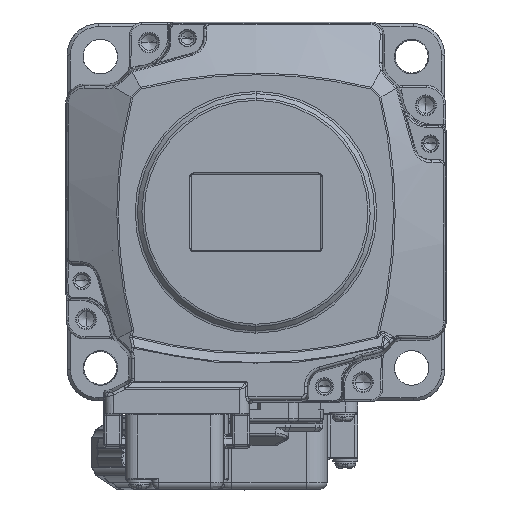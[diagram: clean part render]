
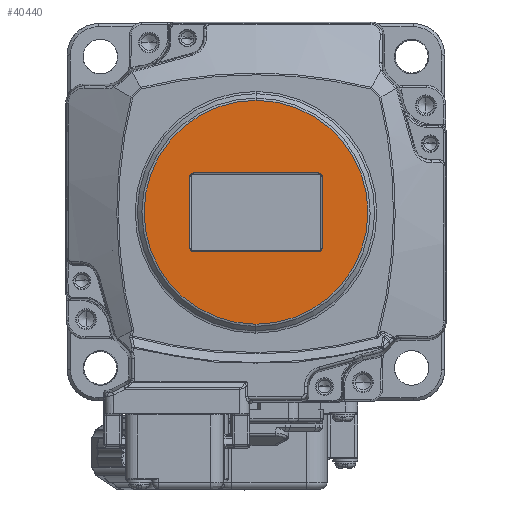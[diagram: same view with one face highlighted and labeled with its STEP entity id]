
A CAD part, front view. The second image highlights one B-rep face of the part: STEP entity #40440.
In plain terms, the highlighted planar face has unit normal (0, -1, 0).
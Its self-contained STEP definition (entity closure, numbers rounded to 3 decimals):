
#9062=CARTESIAN_POINT('',(0.,-119.35,0.));
#9063=DIRECTION('',(0.,1.,0.));
#9064=DIRECTION('',(0.,0.,-1.));
#9065=AXIS2_PLACEMENT_3D('',#9062,#9063,#9064);
#9067=CARTESIAN_POINT('',(0.,-119.35,0.));
#9068=DIRECTION('',(0.,1.,0.));
#9069=DIRECTION('',(-0.015,0.,-1.));
#9070=AXIS2_PLACEMENT_3D('',#9067,#9068,#9069);
#9072=CARTESIAN_POINT('',(0.,-119.35,0.));
#9073=DIRECTION('',(0.,1.,0.));
#9074=DIRECTION('',(0.,0.,1.));
#9075=AXIS2_PLACEMENT_3D('',#9072,#9073,#9074);
#9077=CARTESIAN_POINT('',(0.,-119.35,0.));
#9078=DIRECTION('',(0.,1.,0.));
#9079=DIRECTION('',(0.015,0.,1.));
#9080=AXIS2_PLACEMENT_3D('',#9077,#9078,#9079);
#9082=CARTESIAN_POINT('',(10.,-119.35,-5.75));
#9083=DIRECTION('',(0.,-1.,0.));
#9084=DIRECTION('',(0.,0.,-1.));
#9085=AXIS2_PLACEMENT_3D('',#9082,#9083,#9084);
#9087=CARTESIAN_POINT('',(10.,-119.35,5.75));
#9088=DIRECTION('',(0.,-1.,0.));
#9089=DIRECTION('',(1.,0.,0.));
#9090=AXIS2_PLACEMENT_3D('',#9087,#9088,#9089);
#9092=CARTESIAN_POINT('',(-10.,-119.35,5.75));
#9093=DIRECTION('',(0.,-1.,0.));
#9094=DIRECTION('',(0.,0.,1.));
#9095=AXIS2_PLACEMENT_3D('',#9092,#9093,#9094);
#9097=CARTESIAN_POINT('',(-10.,-119.35,-5.75));
#9098=DIRECTION('',(0.,-1.,0.));
#9099=DIRECTION('',(-1.,0.,0.));
#9100=AXIS2_PLACEMENT_3D('',#9097,#9098,#9099);
#9135=DIRECTION('',(-1.,0.,0.));
#9136=VECTOR('',#9135,20.);
#9137=CARTESIAN_POINT('',(10.,-119.35,-6.25));
#9138=LINE('',#9137,#9136);
#9173=DIRECTION('',(0.,0.,1.));
#9174=VECTOR('',#9173,11.5);
#9175=CARTESIAN_POINT('',(-10.5,-119.35,-5.75));
#9176=LINE('',#9175,#9174);
#9191=DIRECTION('',(1.,0.,0.));
#9192=VECTOR('',#9191,20.);
#9193=CARTESIAN_POINT('',(-10.,-119.35,6.25));
#9194=LINE('',#9193,#9192);
#9209=DIRECTION('',(0.,0.,-1.));
#9210=VECTOR('',#9209,11.5);
#9211=CARTESIAN_POINT('',(10.5,-119.35,5.75));
#9212=LINE('',#9211,#9210);
#23764=CARTESIAN_POINT('',(0.276,-119.35,17.791));
#23765=CARTESIAN_POINT('',(0.,-119.35,-17.793));
#23766=VERTEX_POINT('',#23764);
#23767=VERTEX_POINT('',#23765);
#23768=CARTESIAN_POINT('',(0.,-119.35,17.793));
#23769=VERTEX_POINT('',#23768);
#23770=CARTESIAN_POINT('',(-0.276,-119.35,-17.791));
#23771=VERTEX_POINT('',#23770);
#23772=CARTESIAN_POINT('',(10.,-119.35,-6.25));
#23773=CARTESIAN_POINT('',(10.5,-119.35,-5.75));
#23774=VERTEX_POINT('',#23772);
#23775=VERTEX_POINT('',#23773);
#23776=CARTESIAN_POINT('',(10.5,-119.35,5.75));
#23777=VERTEX_POINT('',#23776);
#23778=CARTESIAN_POINT('',(10.,-119.35,6.25));
#23779=VERTEX_POINT('',#23778);
#23780=CARTESIAN_POINT('',(-10.,-119.35,6.25));
#23781=VERTEX_POINT('',#23780);
#23782=CARTESIAN_POINT('',(-10.5,-119.35,5.75));
#23783=VERTEX_POINT('',#23782);
#23784=CARTESIAN_POINT('',(-10.5,-119.35,-5.75));
#23785=VERTEX_POINT('',#23784);
#23786=CARTESIAN_POINT('',(-10.,-119.35,-6.25));
#23787=VERTEX_POINT('',#23786);
#40409=CARTESIAN_POINT('',(0.,-119.35,0.));
#40410=DIRECTION('',(0.,-1.,0.));
#40411=DIRECTION('',(0.,0.,1.));
#40412=AXIS2_PLACEMENT_3D('',#40409,#40410,#40411);
#40413=PLANE('',#40412);
#40415=ORIENTED_EDGE('',*,*,#40414,.T.);
#40417=ORIENTED_EDGE('',*,*,#40416,.T.);
#40418=ORIENTED_EDGE('',*,*,#40398,.T.);
#40419=ORIENTED_EDGE('',*,*,#40396,.T.);
#40420=EDGE_LOOP('',(#40415,#40417,#40418,#40419));
#40421=FACE_OUTER_BOUND('',#40420,.F.);
#40423=ORIENTED_EDGE('',*,*,#40422,.T.);
#40425=ORIENTED_EDGE('',*,*,#40424,.F.);
#40427=ORIENTED_EDGE('',*,*,#40426,.T.);
#40429=ORIENTED_EDGE('',*,*,#40428,.F.);
#40431=ORIENTED_EDGE('',*,*,#40430,.T.);
#40433=ORIENTED_EDGE('',*,*,#40432,.F.);
#40435=ORIENTED_EDGE('',*,*,#40434,.T.);
#40437=ORIENTED_EDGE('',*,*,#40436,.F.);
#40438=EDGE_LOOP('',(#40423,#40425,#40427,#40429,#40431,#40433,#40435,#40437));
#40439=FACE_BOUND('',#40438,.F.);
#40440=ADVANCED_FACE('',(#40421,#40439),#40413,.T.);
#9066=CIRCLE('',#9065,17.793);
#9071=CIRCLE('',#9070,17.793);
#9076=CIRCLE('',#9075,17.793);
#9081=CIRCLE('',#9080,17.793);
#9086=CIRCLE('',#9085,0.5);
#9091=CIRCLE('',#9090,0.5);
#9096=CIRCLE('',#9095,0.5);
#9101=CIRCLE('',#9100,0.5);
#40396=EDGE_CURVE('',#23766,#23767,#9081,.T.);
#40398=EDGE_CURVE('',#23769,#23766,#9076,.T.);
#40414=EDGE_CURVE('',#23767,#23771,#9066,.T.);
#40416=EDGE_CURVE('',#23771,#23769,#9071,.T.);
#40422=EDGE_CURVE('',#23774,#23775,#9086,.T.);
#40424=EDGE_CURVE('',#23777,#23775,#9212,.T.);
#40426=EDGE_CURVE('',#23777,#23779,#9091,.T.);
#40428=EDGE_CURVE('',#23781,#23779,#9194,.T.);
#40430=EDGE_CURVE('',#23781,#23783,#9096,.T.);
#40432=EDGE_CURVE('',#23785,#23783,#9176,.T.);
#40434=EDGE_CURVE('',#23785,#23787,#9101,.T.);
#40436=EDGE_CURVE('',#23774,#23787,#9138,.T.);
